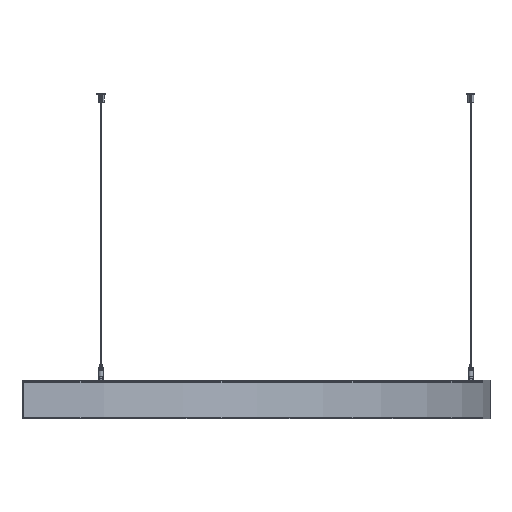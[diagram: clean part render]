
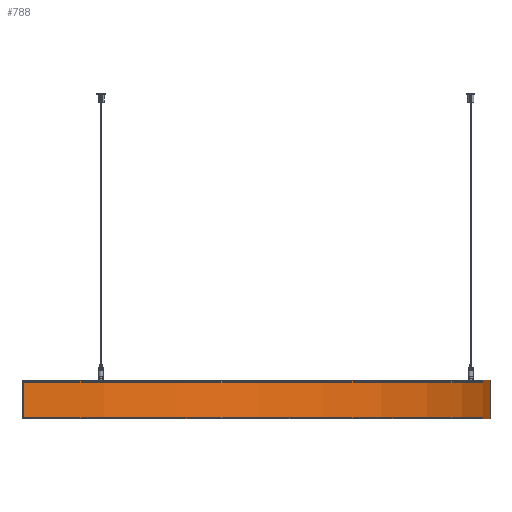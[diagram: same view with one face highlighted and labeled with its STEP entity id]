
A CAD part, front view. The second image highlights one B-rep face of the part: STEP entity #788.
In plain terms, the highlighted cylindrical face has radius 850 mm (diameter 1700 mm), a partial arc.
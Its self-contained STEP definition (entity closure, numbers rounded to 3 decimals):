
#788=ADVANCED_FACE('',(#899),#901,.T.);
#899=FACE_BOUND('',#900,.T.);
#900=EDGE_LOOP('',(#1493,#1494,#1495,#1496));
#901=CYLINDRICAL_SURFACE('',#902,850.);
#902=AXIS2_PLACEMENT_3D('',#903,#904,#905);
#903=CARTESIAN_POINT('',(0.,0.,0.));
#904=DIRECTION('',(0.,0.,1.));
#905=DIRECTION('',(0.,-1.,0.));
#1493=ORIENTED_EDGE('',*,*,#1768,.T.);
#1494=ORIENTED_EDGE('',*,*,#1769,.T.);
#1495=ORIENTED_EDGE('',*,*,#1759,.F.);
#1496=ORIENTED_EDGE('',*,*,#1767,.F.);
#1759=EDGE_CURVE('',#1899,#1901,#1902,.T.);
#1767=EDGE_CURVE('',#1913,#1899,#1915,.T.);
#1768=EDGE_CURVE('',#1913,#1916,#1917,.T.);
#1769=EDGE_CURVE('',#1916,#1901,#1918,.T.);
#1899=VERTEX_POINT('',#2144);
#1901=VERTEX_POINT('',#2148);
#1902=CIRCLE('',#2149,850.);
#1913=VERTEX_POINT('',#2176);
#1915=LINE('',#2180,#2181);
#1916=VERTEX_POINT('',#2183);
#1917=CIRCLE('',#2184,850.);
#1918=LINE('',#2188,#2189);
#2144=CARTESIAN_POINT('',(0.,-850.,70.));
#2148=CARTESIAN_POINT('',(0.,850.,70.));
#2149=AXIS2_PLACEMENT_3D('',#2150,#2151,#2152);
#2150=CARTESIAN_POINT('',(0.,0.,70.));
#2151=DIRECTION('',(0.,0.,1.));
#2152=DIRECTION('',(0.,-1.,0.));
#2176=CARTESIAN_POINT('',(0.,-850.,0.));
#2180=CARTESIAN_POINT('',(0.,-850.,0.));
#2181=VECTOR('',#2182,1.);
#2182=DIRECTION('',(0.,0.,1.));
#2183=CARTESIAN_POINT('',(0.,850.,0.));
#2184=AXIS2_PLACEMENT_3D('',#2185,#2186,#2187);
#2185=CARTESIAN_POINT('',(0.,0.,0.));
#2186=DIRECTION('',(0.,0.,1.));
#2187=DIRECTION('',(0.,-1.,0.));
#2188=CARTESIAN_POINT('',(0.,850.,0.));
#2189=VECTOR('',#2190,1.);
#2190=DIRECTION('',(0.,0.,1.));
